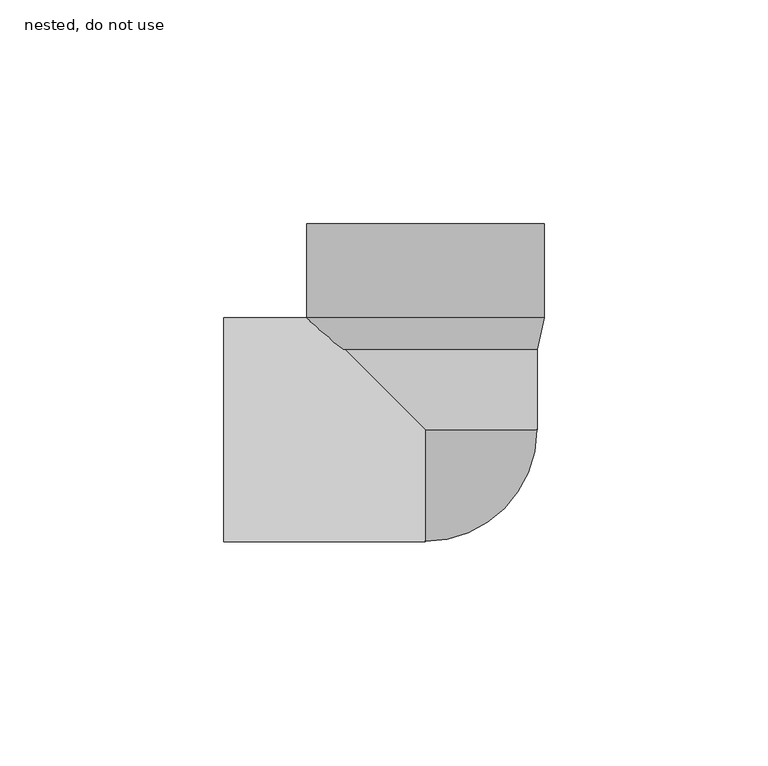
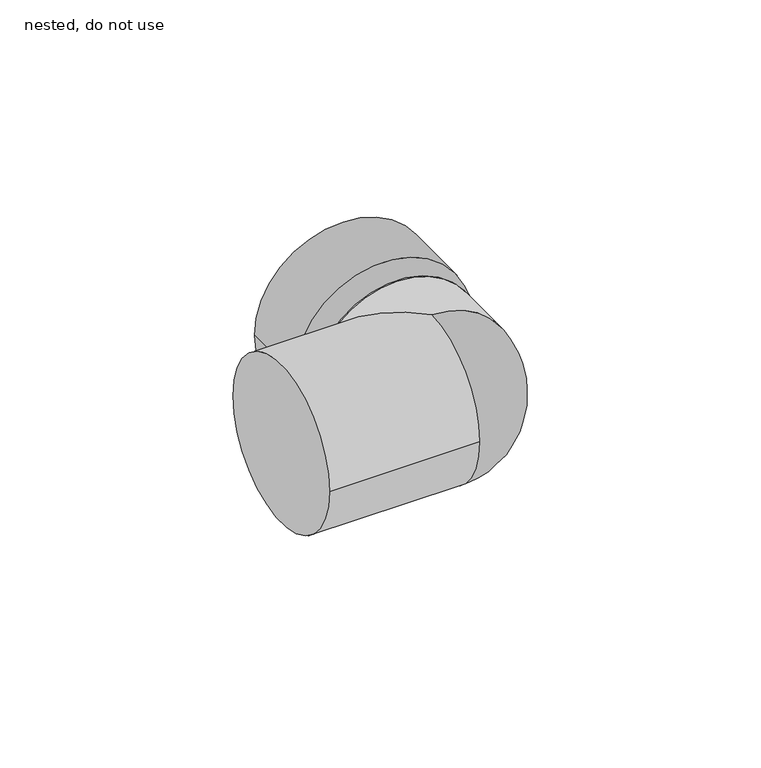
"""IFC4 building model written with IfcOpenShell, lengths in millimetres: pipe fitting geometry, NLRS_52_PIF_UN_HDPE trap connecting bend -SH_Akatherm : nested, do not use."""

from ifc_helpers import new_model, si_unit, point, frame, origin, place, context, project, spatial, polyline, circle_curve, ellipse_curve, trimmed, source, transform, mapped, element, save
from ifc_brep_helpers import plane_surface, cylinder_surface, revolved_surface, advanced_brep


def nested_do_not_use_f1a46828(model_context):
    return source(origin(), model_context, "Body", "AdvancedBrep", [
        advanced_brep(
        [(0.0, 28.0, 0.0), (23.0, 28.0, 0.0), (-23.0, 28.0, 0.0), (-23.0, 46.0, 0.0), (23.0, 46.0, 0.0), (26.5, 46.0, 0.0), (-26.5, 46.0, 0.0), (26.5, 25.0, 0.0), (-26.5, 25.0, 0.0), (25.0, 18.0, 0.0), (-25.0, 18.0, 0.0), (0.0, 18.0, 0.0)],
        [
            (0, 1),
            (1, 2, circle_curve(frame((0.0, 28.0, 0.0), z_axis=(0.0, 1.0, 0.0), x_axis=(1.0, 0.0, 0.0)), 23.0)),
            (2, 0),
            (3, 4, circle_curve(frame((0.0, 46.0, 0.0), z_axis=(0.0, -1.0, 0.0), x_axis=(1.0, 0.0, 0.0)), 23.0)),
            (4, 5),
            (5, 6, circle_curve(frame((0.0, 46.0, 0.0), z_axis=(0.0, 1.0, 0.0), x_axis=(1.0, 0.0, 0.0)), 26.5)),
            (6, 3),
            (5, 7),
            (7, 8, circle_curve(frame((0.0, 25.0, 0.0), z_axis=(0.0, 1.0, 0.0), x_axis=(1.0, 0.0, 0.0)), 26.5)),
            (8, 6),
            (7, 9),
            (9, 10, circle_curve(frame((0.0, 18.0, 0.0), z_axis=(0.0, 1.0, 0.0), x_axis=(1.0, 0.0, 0.0)), 25.0)),
            (10, 8),
            (9, 11),
            (11, 10),
            (2, 1, circle_curve(frame((0.0, 28.0, 0.0), z_axis=(0.0, 1.0, 0.0), x_axis=(1.0, 0.0, 0.0)), 23.0)),
            (9, 10, circle_curve(frame((0.0, 18.0, 0.0), z_axis=(0.0, -1.0, 0.0), x_axis=(1.0, 0.0, 0.0)), 25.0)),
            (7, 8, circle_curve(frame((0.0, 25.0, 0.0), z_axis=(0.0, -1.0, 0.0), x_axis=(1.0, 0.0, 0.0)), 26.5)),
            (5, 6, circle_curve(frame((0.0, 46.0, 0.0), z_axis=(0.0, -1.0, 0.0), x_axis=(1.0, 0.0, 0.0)), 26.5)),
            (4, 3, circle_curve(frame((0.0, 46.0, 0.0), z_axis=(0.0, -1.0, 0.0), x_axis=(1.0, 0.0, 0.0)), 23.0)),
            (1, 4),
            (3, 2),
        ],
        [
            plane_surface(frame((0.0, 28.0, 0.0), z_axis=(0.0, 1.0, 0.0), x_axis=(1.0, 0.0, 0.0))),
            plane_surface(frame((0.0, 46.0, 0.0), z_axis=(0.0, 1.0, 0.0), x_axis=(1.0, 0.0, 0.0))),
            cylinder_surface(frame((0.0, 176.0, 0.0), z_axis=(0.0, 1.0, 0.0), x_axis=(1.0, 0.0, 0.0)), 26.5),
            revolved_surface(polyline([(25.0, 18.0, 0.0), (26.5, 25.0, 0.0)]), (0.0, 176.0, 0.0), (0.0, 1.0, 0.0)),
            plane_surface(frame((0.0, 18.0, 0.0), z_axis=(0.0, -1.0, 0.0), x_axis=(1.0, 0.0, 0.0))),
            revolved_surface(polyline([(23.0, 46.0, 0.0), (23.0, 28.0, 0.0)]), (0.0, 176.0, 0.0), (0.0, 1.0, 0.0)),
        ],
        [
            (0, [[1, 2, 3]]),
            (1, [[4, 5, 6, 7]]),
            (2, [[-6, 8, 9, 10]]),
            (3, [[-9, 11, 12, 13]]),
            (4, [[-12, 14, 15]]),
            (0, [[-3, 16, -1]]),
            (4, [[17, -15, -14]]),
            (3, [[18, -13, -17, -11]]),
            (2, [[19, -10, -18, -8]]),
            (1, [[20, -7, -19, -5]]),
            (5, [[-2, 21, -4, 22]]),
            (5, [[-16, -22, -20, -21]]),
        ],
    ),
        advanced_brep(
        [(-45.0, -25.0, 0.0), (-45.0, 25.0, 0.0), (-25.0, 25.0, 0.0), (0.0, 0.0, -25.0), (0.0, -25.0, 0.0), (0.0, 0.0, 25.0), (-25.0, 28.0, 0.0), (25.0, 28.0, 0.0), (25.0, 0.0, 0.0)],
        [
            (0, 1, circle_curve(frame((-45.0, 0.0, 0.0), z_axis=(-1.0, 0.0, 0.0), x_axis=(0.0, 1.0, 0.0)), 25.0)),
            (1, 0, circle_curve(frame((-45.0, 0.0, 0.0), z_axis=(-1.0, 0.0, 0.0), x_axis=(0.0, 1.0, 0.0)), 25.0)),
            (1, 2),
            (2, 3, ellipse_curve(frame((0.0, 0.0, 0.0), z_axis=(-0.7071067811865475, -0.7071067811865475, 0.0), x_axis=(0.7071067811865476, -0.7071067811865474, 0.0)), 35.3553391, 25.0)),
            (3, 4, circle_curve(frame((0.0, 0.0, 0.0), z_axis=(-1.0, 0.0, 0.0), x_axis=(0.0, 1.0, 0.0)), 25.0)),
            (4, 0),
            (4, 5, circle_curve(frame((0.0, 0.0, 0.0), z_axis=(-1.0, 0.0, 0.0), x_axis=(0.0, 1.0, 0.0)), 25.0)),
            (5, 2, ellipse_curve(frame((0.0, 0.0, 0.0), z_axis=(-0.7071067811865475, -0.7071067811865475, 0.0), x_axis=(0.7071067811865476, -0.7071067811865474, 0.0)), 35.3553391, 25.0)),
            (6, 7, circle_curve(frame((0.0, 28.0, 0.0), z_axis=(0.0, 1.0, 0.0), x_axis=(1.0, 0.0, 0.0)), 25.0)),
            (7, 6, circle_curve(frame((0.0, 28.0, 0.0), z_axis=(0.0, 1.0, 0.0), x_axis=(1.0, 0.0, 0.0)), 25.0)),
            (7, 8),
            (8, 3, circle_curve(frame((0.0, 0.0, 0.0), z_axis=(0.0, 1.0, 0.0), x_axis=(1.0, 0.0, 0.0)), 25.0)),
            (2, 6),
            (5, 8, circle_curve(frame((0.0, 0.0, 0.0), z_axis=(0.0, 1.0, 0.0), x_axis=(1.0, 0.0, 0.0)), 25.0)),
        ],
        [
            plane_surface(frame((-45.0, 25.0, 0.0), z_axis=(-1.0, 0.0, 0.0), x_axis=(0.0, 0.0, -1.0))),
            cylinder_surface(frame((-45.0, 0.0, 0.0), z_axis=(1.0, 0.0, 0.0), x_axis=(0.0, 1.0, 0.0)), 25.0),
            plane_surface(frame((25.0, 28.0, 0.0), z_axis=(0.0, 1.0, 0.0), x_axis=(0.0, 0.0, -1.0))),
            cylinder_surface(frame((0.0, 28.0, 0.0), z_axis=(0.0, -1.0, 0.0), x_axis=(1.0, 0.0, 0.0)), 25.0),
            revolved_surface(trimmed(ellipse_curve(frame((0.0, 0.0, 0.0), z_axis=(-1.0, 0.0, 0.0), x_axis=(0.0, 1.0, 0.0)), 25.0, 25.0), [point((0.0, 0.0, -25.0))], [point((0.0, 0.0, 25.0))], True, "CARTESIAN"), (0.0, 0.0, 56.4031137), (0.0, 0.0, 1.0)),
        ],
        [
            (0, [[1, 2]]),
            (1, [[-2, 3, 4, 5, 6]]),
            (1, [[-1, -6, 7, 8, -3]]),
            (2, [[9, 10]]),
            (3, [[-10, 11, 12, -4, 13]]),
            (3, [[-9, -13, -8, 14, -11]]),
            (4, [[-5, -12, -14, -7]]),
        ],
    ),
    ])


if __name__ == "__main__":
    model = new_model("IFC4")
    model_context = context("Model", 3, world=origin())
    ifc_project = project(units=[si_unit("LENGTHUNIT", "METRE", prefix="MILLI")], contexts=[model_context])
    site = spatial("IfcSite", under=ifc_project)
    building = spatial("IfcBuilding", under=site)
    placement = place(None, origin())
    nested_do_not_use_shape = nested_do_not_use_f1a46828(model_context)
    element("IfcPipeFitting", 1, ObjectType="NLRS_52_PIF_UN_HDPE trap connecting bend -SH_Akatherm : nested, do not use", at=placement, inside=building, context=model_context, shape_type="MappedRepresentation", body=[
        mapped(nested_do_not_use_shape, transform((0.0, 0.0, 0.0), x_axis=(1.0, 0.0, 0.0), y_axis=(0.0, 1.0, 0.0), z_axis=(0.0, 0.0, 1.0))),
    ])
    save(model, "model.ifc")
